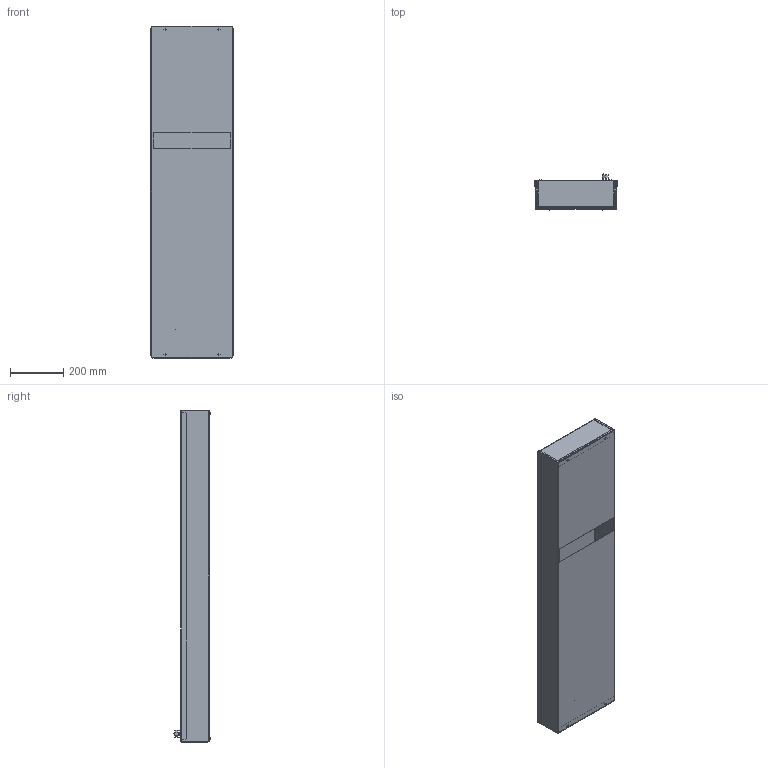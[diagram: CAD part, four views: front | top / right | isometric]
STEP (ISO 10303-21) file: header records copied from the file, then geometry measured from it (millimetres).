
FILE_DESCRIPTION(/* description */ (''),/* implementation_level */ '2;1');
FILE_NAME(/* name */ 'VAX080',/* time_stamp */ '2023-09-07T13:39:54+02:00',/* author */ (''),/* organization */ (''),/* preprocessor_version */ 'ST-DEVELOPER v16.5',/* originating_system */ '',/* authorisation */ '');
FILE_SCHEMA (('AUTOMOTIVE_DESIGN'));
Length unit declared in the file: millimetre
Products named in the file (1): Document
Bounding box: 310 x 137.82 x 1250.25 mm (x, y, z)
Volume: 1334678.7 mm3; surface area: 2219608.7 mm2
Topology: 22 solids, 24 shells, 339 faces, 759 edges, 474 vertices
Faces by surface type: plane 206, bspline 133
Entity records: 11364 total; most frequent: CARTESIAN_POINT 6012, ORIENTED_EDGE 1494, EDGE_CURVE 748, B_SPLINE_CURVE_WITH_KNOTS 479, VERTEX_POINT 471, EDGE_LOOP 403, ADVANCED_FACE 339, FACE_OUTER_BOUND 339
